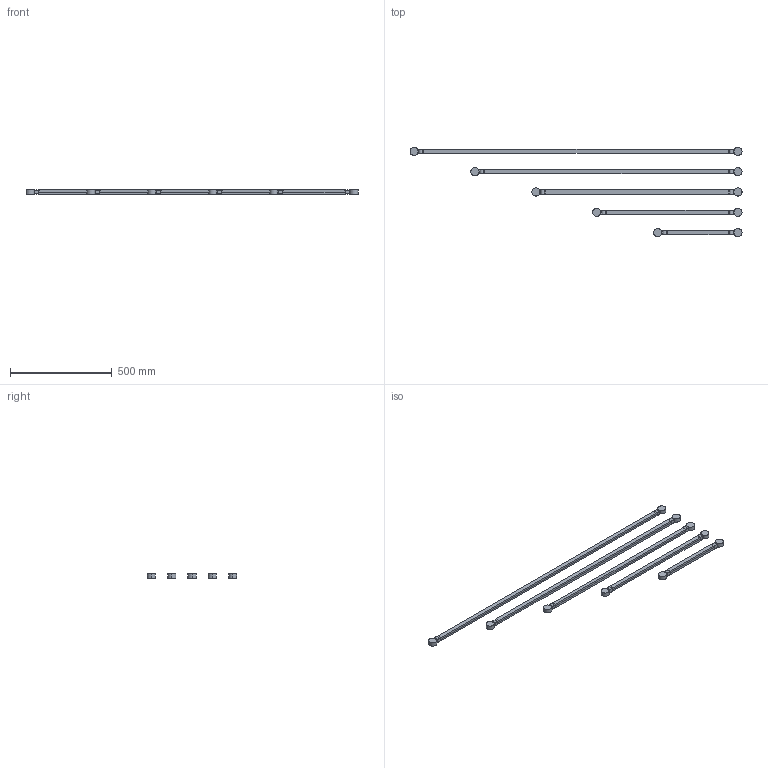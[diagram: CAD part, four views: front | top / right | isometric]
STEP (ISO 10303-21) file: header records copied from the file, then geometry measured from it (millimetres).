
FILE_DESCRIPTION(('STEP AP214'),'1');
FILE_NAME('170412_Noch EinfacherVerb.stp','2018-04-11T12:10:45',(' '),(' '),'Spatial InterOp 3D',' ',' ');
FILE_SCHEMA(('automotive_design'));
Length unit declared in the file: millimetre
Products named in the file (31): Knoten1; Knoten2; Gelenk1; Gelenk2; 1; 2; 3; 4; 5; 6; 7; 8; 9; 10; 11
Bounding box: 1635 x 440 x 20 mm (x, y, z)
Volume: 2153043.9 mm3; surface area: 627252.3 mm2
Topology: 30 solids, 30 shells, 270 faces, 665 edges, 490 vertices
Faces by surface type: plane 190, cylinder 80
Entity records: 11160 total; most frequent: DIRECTION 1427, CARTESIAN_POINT 1386, ORIENTED_EDGE 1260, EDGE_CURVE 630, LINE 505, VECTOR 505, AXIS2_PLACEMENT_3D 461, VERTEX_POINT 420
